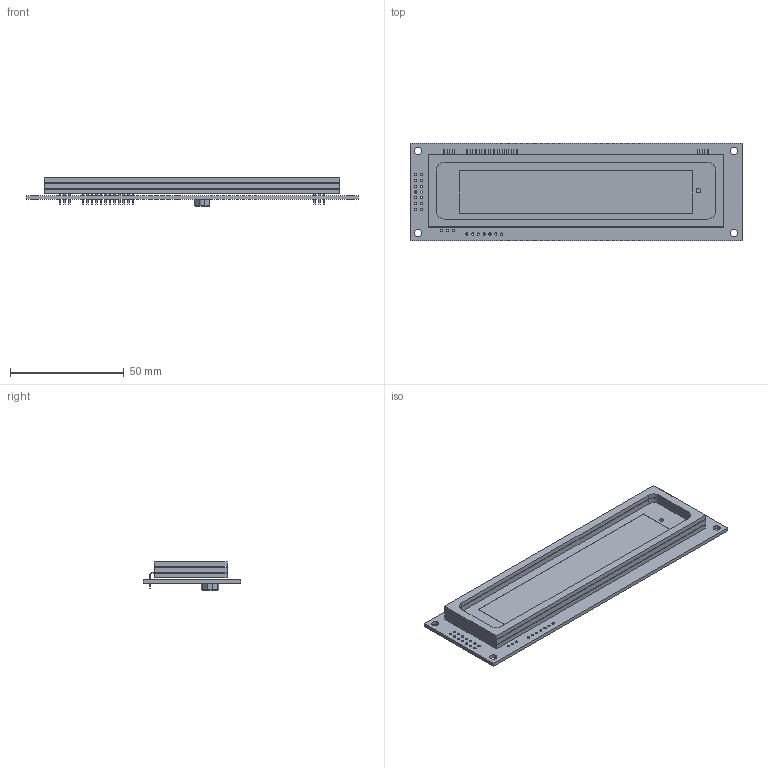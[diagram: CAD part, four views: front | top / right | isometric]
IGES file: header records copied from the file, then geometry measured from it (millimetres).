
Start section:  PTC IGES file: gu140x16j-7000b.igs
Global section: file name: gu140x16j-7000b.igs; native system: Pro/ENGINEER by Parametric Technology Corporation; preprocessor: 2010280; author: samx; organization: Unknown; date: 20140522.114552; units: millimetre
Bounding box: 146 x 43 x 12.4 mm (x, y, z)
Volume: 23511.4 mm3; surface area: 29706.4 mm2
Topology: 3 solids, 3 shells, 390 faces, 1100 edges, 720 vertices
Faces by surface type: bspline 264, revolution 126
